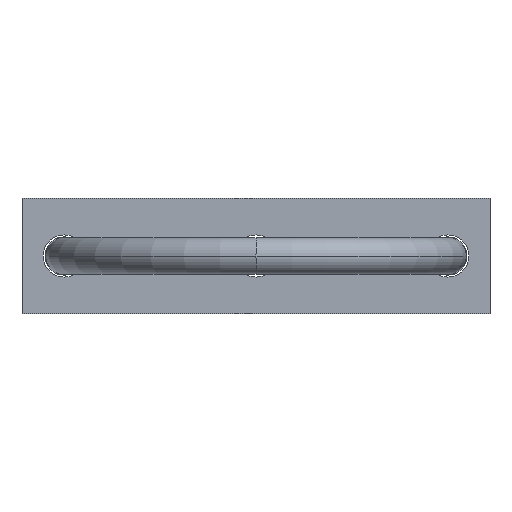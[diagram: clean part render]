
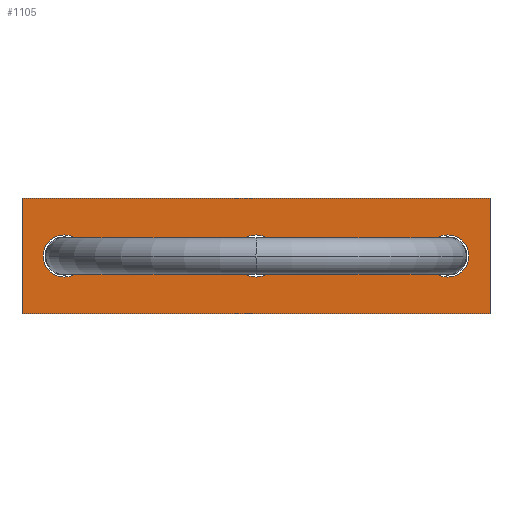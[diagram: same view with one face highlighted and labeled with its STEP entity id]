
A CAD part, front view. The second image highlights one B-rep face of the part: STEP entity #1105.
In plain terms, the highlighted planar face has unit normal (0, -1, 0).
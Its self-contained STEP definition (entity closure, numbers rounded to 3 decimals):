
#726=CARTESIAN_POINT('',(50.,39.051,0.));
#727=DIRECTION('',(0.,1.,0.));
#728=DIRECTION('',(1.,0.,0.));
#729=AXIS2_PLACEMENT_3D('',#726,#727,#728);
#734=CARTESIAN_POINT('',(50.,39.051,0.));
#735=DIRECTION('',(0.,1.,0.));
#736=DIRECTION('',(0.,0.,1.));
#737=AXIS2_PLACEMENT_3D('',#734,#735,#736);
#742=CARTESIAN_POINT('',(50.,39.051,0.));
#743=DIRECTION('',(0.,1.,0.));
#744=DIRECTION('',(-1.,0.,0.));
#745=AXIS2_PLACEMENT_3D('',#742,#743,#744);
#750=CARTESIAN_POINT('',(50.,39.051,0.));
#751=DIRECTION('',(0.,1.,0.));
#752=DIRECTION('',(0.,0.,-1.));
#753=AXIS2_PLACEMENT_3D('',#750,#751,#752);
#758=DIRECTION('',(1.,0.,0.));
#759=VECTOR('',#758,122.);
#760=CARTESIAN_POINT('',(-61.,39.051,-15.));
#761=LINE('',#760,#759);
#765=DIRECTION('',(0.,0.,1.));
#766=VECTOR('',#765,30.);
#767=CARTESIAN_POINT('',(61.,39.051,-15.));
#768=LINE('',#767,#766);
#772=CARTESIAN_POINT('',(0.,39.051,0.));
#773=DIRECTION('',(0.,1.,0.));
#774=DIRECTION('',(1.,0.,0.));
#775=AXIS2_PLACEMENT_3D('',#772,#773,#774);
#780=CARTESIAN_POINT('',(0.,39.051,0.));
#781=DIRECTION('',(0.,1.,0.));
#782=DIRECTION('',(0.,0.,1.));
#783=AXIS2_PLACEMENT_3D('',#780,#781,#782);
#788=CARTESIAN_POINT('',(0.,39.051,0.));
#789=DIRECTION('',(0.,1.,0.));
#790=DIRECTION('',(-1.,0.,0.));
#791=AXIS2_PLACEMENT_3D('',#788,#789,#790);
#796=CARTESIAN_POINT('',(0.,39.051,0.));
#797=DIRECTION('',(0.,1.,0.));
#798=DIRECTION('',(0.,0.,-1.));
#799=AXIS2_PLACEMENT_3D('',#796,#797,#798);
#804=CARTESIAN_POINT('',(-50.,39.051,0.));
#805=DIRECTION('',(0.,1.,0.));
#806=DIRECTION('',(1.,0.,0.));
#807=AXIS2_PLACEMENT_3D('',#804,#805,#806);
#812=CARTESIAN_POINT('',(-50.,39.051,0.));
#813=DIRECTION('',(0.,1.,0.));
#814=DIRECTION('',(0.,0.,1.));
#815=AXIS2_PLACEMENT_3D('',#812,#813,#814);
#820=CARTESIAN_POINT('',(-50.,39.051,0.));
#821=DIRECTION('',(0.,1.,0.));
#822=DIRECTION('',(-1.,0.,0.));
#823=AXIS2_PLACEMENT_3D('',#820,#821,#822);
#828=CARTESIAN_POINT('',(-50.,39.051,0.));
#829=DIRECTION('',(0.,1.,0.));
#830=DIRECTION('',(0.,0.,-1.));
#831=AXIS2_PLACEMENT_3D('',#828,#829,#830);
#843=DIRECTION('',(0.,0.,1.));
#844=VECTOR('',#843,30.);
#845=CARTESIAN_POINT('',(-61.,39.051,-15.));
#846=LINE('',#845,#844);
#864=DIRECTION('',(1.,0.,0.));
#865=VECTOR('',#864,122.);
#866=CARTESIAN_POINT('',(-61.,39.051,15.));
#867=LINE('',#866,#865);
#928=CARTESIAN_POINT('',(-61.,39.051,-15.));
#929=CARTESIAN_POINT('',(61.,39.051,-15.));
#930=VERTEX_POINT('',#928);
#931=VERTEX_POINT('',#929);
#932=CARTESIAN_POINT('',(61.,39.051,15.));
#933=VERTEX_POINT('',#932);
#934=CARTESIAN_POINT('',(-61.,39.051,15.));
#935=VERTEX_POINT('',#934);
#937=CARTESIAN_POINT('',(0.,39.051,5.5));
#939=VERTEX_POINT('',#937);
#941=CARTESIAN_POINT('',(0.,39.051,-5.5));
#943=VERTEX_POINT('',#941);
#946=CARTESIAN_POINT('',(5.5,39.051,0.));
#947=VERTEX_POINT('',#946);
#950=CARTESIAN_POINT('',(-5.5,39.051,0.));
#951=VERTEX_POINT('',#950);
#953=CARTESIAN_POINT('',(50.,39.051,5.5));
#955=VERTEX_POINT('',#953);
#957=CARTESIAN_POINT('',(50.,39.051,-5.5));
#959=VERTEX_POINT('',#957);
#962=CARTESIAN_POINT('',(55.5,39.051,0.));
#963=VERTEX_POINT('',#962);
#966=CARTESIAN_POINT('',(44.5,39.051,0.));
#967=VERTEX_POINT('',#966);
#969=CARTESIAN_POINT('',(-50.,39.051,5.5));
#971=VERTEX_POINT('',#969);
#973=CARTESIAN_POINT('',(-50.,39.051,-5.5));
#975=VERTEX_POINT('',#973);
#978=CARTESIAN_POINT('',(-44.5,39.051,0.));
#979=VERTEX_POINT('',#978);
#982=CARTESIAN_POINT('',(-55.5,39.051,0.));
#983=VERTEX_POINT('',#982);
#1064=CARTESIAN_POINT('',(61.,39.051,15.));
#1065=DIRECTION('',(0.,-1.,0.));
#1066=DIRECTION('',(1.,0.,0.));
#1067=AXIS2_PLACEMENT_3D('',#1064,#1065,#1066);
#1068=PLANE('',#1067);
#1070=ORIENTED_EDGE('',*,*,#1069,.F.);
#1072=ORIENTED_EDGE('',*,*,#1071,.T.);
#1074=ORIENTED_EDGE('',*,*,#1073,.T.);
#1076=ORIENTED_EDGE('',*,*,#1075,.F.);
#1077=EDGE_LOOP('',(#1070,#1072,#1074,#1076));
#1078=FACE_OUTER_BOUND('',#1077,.F.);
#1079=ORIENTED_EDGE('',*,*,#1057,.F.);
#1080=ORIENTED_EDGE('',*,*,#1055,.F.);
#1081=ORIENTED_EDGE('',*,*,#1041,.F.);
#1082=ORIENTED_EDGE('',*,*,#1039,.F.);
#1083=EDGE_LOOP('',(#1079,#1080,#1081,#1082));
#1084=FACE_BOUND('',#1083,.F.);
#1086=ORIENTED_EDGE('',*,*,#1085,.F.);
#1088=ORIENTED_EDGE('',*,*,#1087,.F.);
#1090=ORIENTED_EDGE('',*,*,#1089,.F.);
#1092=ORIENTED_EDGE('',*,*,#1091,.F.);
#1093=EDGE_LOOP('',(#1086,#1088,#1090,#1092));
#1094=FACE_BOUND('',#1093,.F.);
#1096=ORIENTED_EDGE('',*,*,#1095,.F.);
#1098=ORIENTED_EDGE('',*,*,#1097,.F.);
#1100=ORIENTED_EDGE('',*,*,#1099,.F.);
#1102=ORIENTED_EDGE('',*,*,#1101,.F.);
#1103=EDGE_LOOP('',(#1096,#1098,#1100,#1102));
#1104=FACE_BOUND('',#1103,.F.);
#730=CIRCLE('',#729,5.5);
#738=CIRCLE('',#737,5.5);
#746=CIRCLE('',#745,5.5);
#754=CIRCLE('',#753,5.5);
#776=CIRCLE('',#775,5.5);
#784=CIRCLE('',#783,5.5);
#792=CIRCLE('',#791,5.5);
#800=CIRCLE('',#799,5.5);
#808=CIRCLE('',#807,5.5);
#816=CIRCLE('',#815,5.5);
#824=CIRCLE('',#823,5.5);
#832=CIRCLE('',#831,5.5);
#1039=EDGE_CURVE('',#959,#967,#754,.T.);
#1041=EDGE_CURVE('',#967,#955,#746,.T.);
#1055=EDGE_CURVE('',#955,#963,#738,.T.);
#1057=EDGE_CURVE('',#963,#959,#730,.T.);
#1069=EDGE_CURVE('',#930,#931,#761,.T.);
#1071=EDGE_CURVE('',#930,#935,#846,.T.);
#1073=EDGE_CURVE('',#935,#933,#867,.T.);
#1075=EDGE_CURVE('',#931,#933,#768,.T.);
#1085=EDGE_CURVE('',#947,#943,#776,.T.);
#1087=EDGE_CURVE('',#939,#947,#784,.T.);
#1089=EDGE_CURVE('',#951,#939,#792,.T.);
#1091=EDGE_CURVE('',#943,#951,#800,.T.);
#1095=EDGE_CURVE('',#979,#975,#808,.T.);
#1097=EDGE_CURVE('',#971,#979,#816,.T.);
#1099=EDGE_CURVE('',#983,#971,#824,.T.);
#1101=EDGE_CURVE('',#975,#983,#832,.T.);
#1105=ADVANCED_FACE('',(#1078,#1084,#1094,#1104),#1068,.T.);
